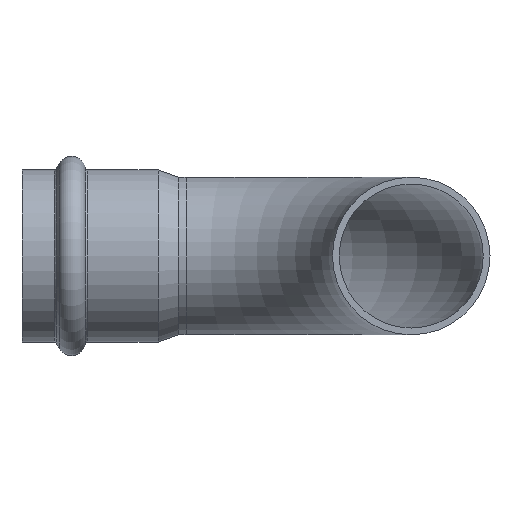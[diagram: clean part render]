
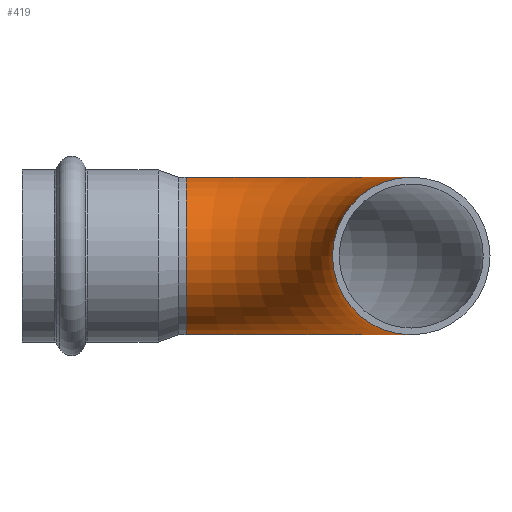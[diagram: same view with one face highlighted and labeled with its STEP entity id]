
A CAD part, front view. The second image highlights one B-rep face of the part: STEP entity #419.
In plain terms, the highlighted toroidal (fillet/blend) face has major radius 50 mm and minor radius 17.5 mm.
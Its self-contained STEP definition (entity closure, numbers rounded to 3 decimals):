
#388=CARTESIAN_POINT('',(50.0,-50.0,-17.5));
#389=VERTEX_POINT('',#388);
#390=CARTESIAN_POINT('',(50.0,-50.,0.0));
#391=DIRECTION('',(0.0,1.0,0.0));
#392=DIRECTION('',(0.0,0.0,1.0));
#393=AXIS2_PLACEMENT_3D('',#390,#391,#392);
#394=CIRCLE('',#393,17.5);
#395=EDGE_CURVE('',#389,#389,#394,.T.);
#400=CARTESIAN_POINT('',(0.0,-50.0,0.0));
#401=DIRECTION('',(0.0,0.0,-1.0));
#402=DIRECTION('',(-1.0,0.0,0.0));
#403=AXIS2_PLACEMENT_3D('',#400,#401,#402);
#404=TOROIDAL_SURFACE('',#403,50.0,17.5);
#405=ORIENTED_EDGE('',*,*,#395,.T.);
#406=EDGE_LOOP('',(#405));
#407=FACE_OUTER_BOUND('',#406,.T.);
#408=CARTESIAN_POINT('',(0.,17.5,0.0));
#409=VERTEX_POINT('',#408);
#410=CARTESIAN_POINT('',(0.,0.0,0.0));
#411=DIRECTION('',(1.0,0.0,0.0));
#412=DIRECTION('',(0.0,1.0,0.0));
#413=AXIS2_PLACEMENT_3D('',#410,#411,#412);
#414=CIRCLE('',#413,17.5);
#415=EDGE_CURVE('',#409,#409,#414,.T.);
#416=ORIENTED_EDGE('',*,*,#415,.T.);
#417=EDGE_LOOP('',(#416));
#418=FACE_BOUND('',#417,.T.);
#419=ADVANCED_FACE('',(#407,#418),#404,.T.);
